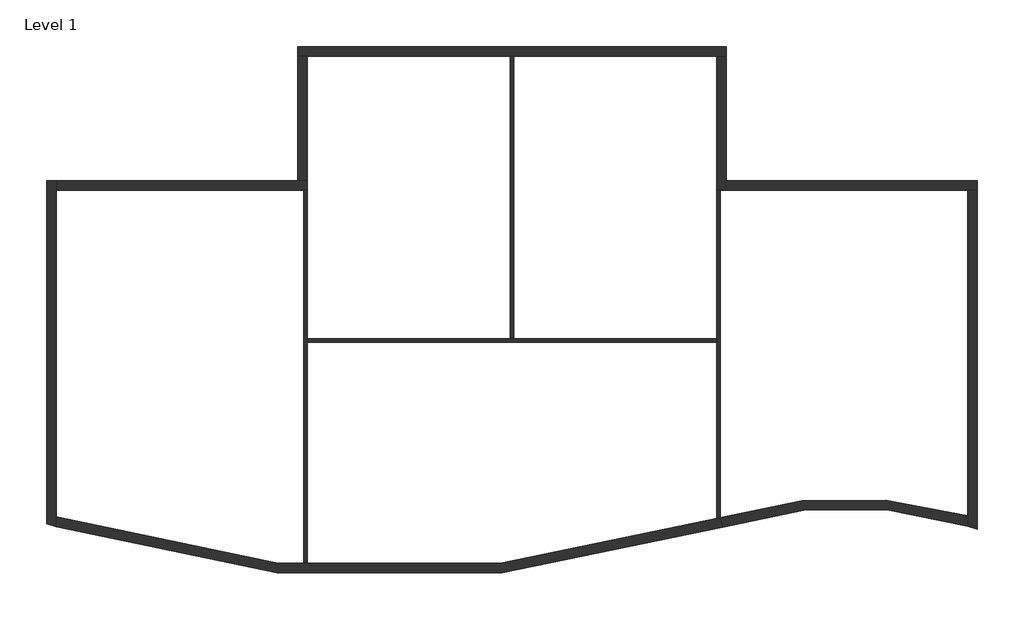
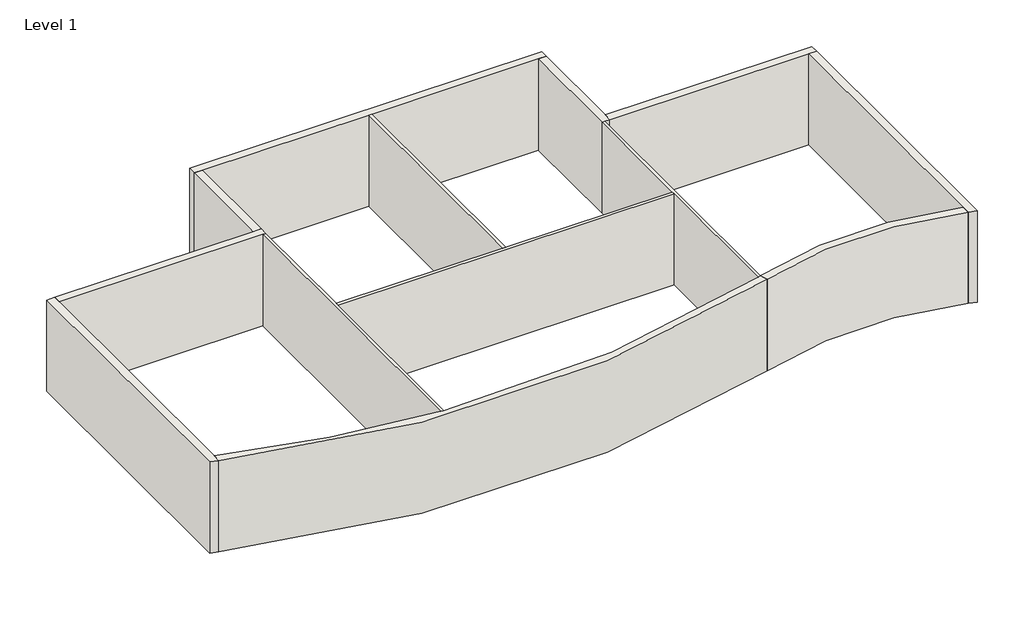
# One storey: 13 walls.
"""IFC4 building model written with IfcOpenShell, lengths in millimetres."""

from ifc_helpers import new_model, si_unit, frame, origin, origin_with_axes, place, context, project, spatial, polyline, circle_curve, outline, extrude, faceted_brep, element, save
from ifc_brep_helpers import plane_surface, cylinder_surface, revolved_surface, advanced_brep

model = new_model("IFC4")

# Units and contexts
model_context = context("Model", 3, world=origin())
ifc_project = project(units=[si_unit("LENGTHUNIT", "METRE", prefix="MILLI")], contexts=[model_context])

# Site, building, storey
site = spatial("IfcSite", under=ifc_project)
building = spatial("IfcBuilding", under=site)
storey = spatial("IfcBuildingStorey", under=building, Name="Level 1", Elevation=0.0)

# Walls
placement = place(None, origin())
element("IfcWall", 1, ObjectType="Exterior - Brick on Mtl. Stud", at=placement, inside=storey, context=model_context, shape_type="Brep", body=[
    faceted_brep([(-8759.1681416, 12098.0013437, 0.0), (-8406.7431416, 12098.0013437, 0.0), (-1026.4556416, 12098.0013437, 0.0), (-899.4556416, 12098.0013437, 0.0), (6480.8318584, 12098.0013437, 0.0), (6833.2568584, 12098.0013437, 0.0), (6833.2568584, 12098.0013437, 4267.2), (6480.8318584, 12098.0013437, 4267.2), (-899.4556416, 12098.0013437, 4267.2), (-1026.4556416, 12098.0013437, 4267.2), (-8406.7431416, 12098.0013437, 4267.2), (-8759.1681416, 12098.0013437, 4267.2), (-8759.1681416, 12450.4263437, 0.0), (-8759.1681416, 12450.4263437, 4267.2), (6833.2568584, 12450.4263437, 4267.2), (6833.2568584, 12450.4263437, 0.0)], [[[0, 1, 2, 3, 4, 5, 6, 7, 8, 9, 10, 11]], [[12, 13, 14, 15]], [[5, 4, 3, 2, 1, 0, 12, 15]], [[11, 10, 9, 8, 7, 6, 14, 13]], [[6, 5, 15, 14]], [[0, 11, 13, 12]]]),
])
element("IfcWall", 2, ObjectType="Exterior - Brick on Mtl. Stud", at=placement, inside=storey, context=model_context, shape_type="Brep", body=[
    faceted_brep([(6480.8318584, 12098.0013437, 0.0), (6480.8318584, 7221.2013437, 0.0), (6480.8318584, 7221.2013437, 4267.2), (6480.8318584, 12098.0013437, 4267.2), (6833.2568584, 12098.0013437, 0.0), (6833.2568584, 12098.0013437, 4267.2), (6833.2568584, 7573.6263437, 4267.2), (6833.2568584, 7221.2013437, 4267.2), (6833.2568584, 7221.2013437, 0.0), (6833.2568584, 7573.6263437, 0.0), (6607.8318584, 7221.2013437, 0.0), (6607.8318584, 7221.2013437, 4267.2)], [[[0, 1, 2, 3]], [[4, 5, 6, 7, 8, 9]], [[1, 0, 4, 9, 8, 10]], [[3, 2, 11, 7, 6, 5]], [[0, 3, 5, 4]], [[2, 1, 10, 8, 7, 11]]]),
])
element("IfcWall", 3, ObjectType="Exterior - Brick on Mtl. Stud", at=placement, inside=storey, context=model_context, shape_type="Brep", body=[
    faceted_brep([(6833.2568584, 7221.2013437, 0.0), (15624.8318584, 7221.2013437, 0.0), (15977.2568584, 7221.2013437, 0.0), (15977.2568584, 7221.2013437, 4267.2), (15624.8318584, 7221.2013437, 4267.2), (6833.2568584, 7221.2013437, 4267.2), (6833.2568584, 7573.6263437, 0.0), (6833.2568584, 7573.6263437, 4267.2), (15977.2568584, 7573.6263437, 4267.2), (15977.2568584, 7573.6263437, 0.0)], [[[0, 1, 2, 3, 4, 5]], [[6, 7, 8, 9]], [[2, 1, 0, 6, 9]], [[5, 4, 3, 8, 7]], [[0, 5, 7, 6]], [[3, 2, 9, 8]]]),
])
element("IfcWall", 4, ObjectType="Exterior - Brick on Mtl. Stud", at=placement, inside=storey, context=model_context, shape_type="AdvancedBrep", body=[
    advanced_brep(
    [(15624.8318584, 7221.2013437, 0.0), (15624.8318584, -4633.9162156, 0.0), (15624.8318584, -5001.9870265, 0.0), (15624.8318584, -5001.9870265, 4267.2), (15624.8318584, -4633.9162156, 4267.2), (15624.8318584, 7221.2013437, 4267.2), (15977.2568584, 7221.2013437, 0.0), (15977.2568584, 7221.2013437, 4267.2), (15977.2568584, -5114.2560845, 4267.2), (15977.2568584, -5114.2560845, 0.0)],
    [
        (0, 1),
        (1, 2),
        (2, 3),
        (3, 4),
        (4, 5),
        (5, 0),
        (6, 7),
        (7, 8),
        (8, 9),
        (9, 6),
        (0, 6),
        (9, 2, circle_curve(frame((11229.0443584, -19410.1356272, 0.0), z_axis=(0.0, 0.0, 1.0), x_axis=(1.0, 0.0, 0.0)), 15063.7875)),
        (3, 8, circle_curve(frame((11229.0443584, -19410.1356272, 4267.2), z_axis=(0.0, 0.0, -1.0), x_axis=(1.0, 0.0, 0.0)), 15063.7875)),
        (7, 5),
    ],
    [
        plane_surface(frame((15624.8318584, 7397.4138437, 0.0), z_axis=(-1.0, 0.0, 0.0), x_axis=(0.0, -1.0, 0.0))),
        plane_surface(frame((15977.2568584, 7397.4138437, 0.0), z_axis=(1.0, 0.0, 0.0), x_axis=(0.0, 1.0, 0.0))),
        plane_surface(frame((15624.8318584, 7397.4138437, 0.0), z_axis=(0.0, 0.0, -1.0), x_axis=(1.0, 0.0, 0.0))),
        plane_surface(frame((15624.8318584, -4872.1021976, 4267.2), z_axis=(0.0, 0.0, 1.0), x_axis=(1.0, 0.0, 0.0))),
        plane_surface(frame((6657.0443584, 7221.2013437, 0.0), z_axis=(0.0, 1.0, 0.0), x_axis=(1.0, 0.0, 0.0))),
        revolved_surface(polyline([(26292.8318584, -19410.1356272, 0.0), (26292.8318584, -19410.1356272, 4267.2)]), (11229.0443584, -19410.1356272, 0.0), (0.0, 0.0, -1.0)),
    ],
    [
        (0, [[1, 2, 3, 4, 5, 6]]),
        (1, [[7, 8, 9, 10]]),
        (2, [[-2, -1, 11, -10, 12]]),
        (3, [[-5, -4, 13, -8, 14]]),
        (4, [[-6, -14, -7, -11]]),
        (5, [[-3, -12, -9, -13]]),
    ],
),
])
element("IfcWall", 5, ObjectType="Exterior - Brick on Mtl. Stud", at=placement, inside=storey, context=model_context, shape_type="AdvancedBrep", body=[
    advanced_brep(
    [(-17550.7431416, -5035.5726846, 0.0), (-17550.7431416, -4665.9252454, 0.0), (-17550.7431416, 7221.2013437, 0.0), (-17550.7431416, 7573.6263437, 0.0), (-17550.7431416, 7573.6263437, 4267.2), (-17550.7431416, 7221.2013437, 4267.2), (-17550.7431416, -4665.9252454, 4267.2), (-17550.7431416, -5035.5726846, 4267.2), (-17903.1681416, -4922.8163357, 0.0), (-17903.1681416, -4922.8163357, 4267.2), (-17903.1681416, 7573.6263437, 4267.2), (-17903.1681416, 7573.6263437, 0.0)],
    [
        (0, 1),
        (1, 2),
        (2, 3),
        (3, 4),
        (4, 5),
        (5, 6),
        (6, 7),
        (7, 0),
        (8, 9),
        (9, 10),
        (10, 11),
        (11, 8),
        (0, 8, circle_curve(frame((-5413.0682977, 33508.4098964, 0.0), z_axis=(0.0, 0.0, -1.0), x_axis=(1.0, 0.0, 0.0)), 40409.9213538)),
        (11, 3),
        (4, 10),
        (9, 7, circle_curve(frame((-5413.0682977, 33508.4098964, 4267.2), z_axis=(0.0, 0.0, 1.0), x_axis=(1.0, 0.0, 0.0)), 40409.9213538)),
    ],
    [
        plane_surface(frame((-17550.7431416, -4794.5861563, 0.0), z_axis=(1.0, 0.0, 0.0), x_axis=(0.0, 1.0, 0.0))),
        plane_surface(frame((-17903.1681416, -4794.5861563, 0.0), z_axis=(-1.0, 0.0, 0.0), x_axis=(0.0, -1.0, 0.0))),
        plane_surface(frame((-17550.7431416, -4794.5861563, 0.0), z_axis=(0.0, 0.0, -1.0), x_axis=(-1.0, 0.0, 0.0))),
        plane_surface(frame((-17550.7431416, 7397.4138437, 4267.2), z_axis=(0.0, 0.0, 1.0), x_axis=(-1.0, 0.0, 0.0))),
        plane_surface(frame((-18184.1556416, 7573.6263437, 0.0), z_axis=(0.0, 1.0, 0.0), x_axis=(-1.0, 0.0, 0.0))),
        cylinder_surface(frame((-5413.0682977, 33508.4098964, 0.0), z_axis=(0.0, 0.0, 1.0), x_axis=(1.0, 0.0, 0.0)), 40409.9213538),
    ],
    [
        (0, [[1, 2, 3, 4, 5, 6, 7, 8]]),
        (1, [[9, 10, 11, 12]]),
        (2, [[-3, -2, -1, 13, -12, 14]]),
        (3, [[-7, -6, -5, 15, -10, 16]]),
        (4, [[-4, -14, -11, -15]]),
        (5, [[-8, -16, -9, -13]]),
    ],
),
])
element("IfcWall", 6, ObjectType="Exterior - Brick on Mtl. Stud", at=placement, inside=storey, context=model_context, shape_type="Brep", body=[
    faceted_brep([(-17550.7431416, 7221.2013437, 0.0), (-8533.7431416, 7221.2013437, 0.0), (-8406.7431416, 7221.2013437, 0.0), (-8406.7431416, 7221.2013437, 4267.2), (-8533.7431416, 7221.2013437, 4267.2), (-17550.7431416, 7221.2013437, 4267.2), (-17550.7431416, 7573.6263437, 0.0), (-17550.7431416, 7573.6263437, 4267.2), (-8759.1681416, 7573.6263437, 4267.2), (-8406.7431416, 7573.6263437, 4267.2), (-8406.7431416, 7573.6263437, 0.0), (-8759.1681416, 7573.6263437, 0.0)], [[[0, 1, 2, 3, 4, 5]], [[6, 7, 8, 9, 10, 11]], [[2, 1, 0, 6, 11, 10]], [[5, 4, 3, 9, 8, 7]], [[0, 5, 7, 6]], [[3, 2, 10, 9]]]),
])
element("IfcWall", 7, ObjectType="Exterior - Brick on Mtl. Stud", at=placement, inside=storey, context=model_context, shape_type="SweptSolid", body=[
    extrude(outline(polyline([(-8406.7431416, 12098.0013437), (-8406.7431416, 7573.6263437), (-8759.1681416, 7573.6263437), (-8759.1681416, 12098.0013437), (-8406.7431416, 12098.0013437)])), origin_with_axes(), (0.0, 0.0, 1.0), 4267.2),
])
element("IfcWall", 8, ObjectType="Exterior - Brick on Mtl. Stud", at=placement, inside=storey, context=model_context, shape_type="AdvancedBrep", body=[
    advanced_brep(
    [(6709.9081084, -5040.1982091, 4267.2), (15624.8318584, -5001.9870265, 4267.2), (15624.8318584, -4633.9162156, 4267.2), (6607.832825, -4702.8581376, 4267.2), (6604.1806084, -4704.0061861, 4267.2), (6709.9081084, -5040.1982091, 0.0), (6604.1806084, -4704.0061861, 0.0), (6607.832825, -4702.8581376, 0.0), (15624.8318584, -4633.9162156, 0.0), (15624.8318584, -5001.9870265, 0.0)],
    [
        (0, 1, circle_curve(frame((11229.0443584, -19410.1356272, 4267.2), z_axis=(0.0, 0.0, -1.0), x_axis=(1.0, 0.0, 0.0)), 15063.7875)),
        (1, 2),
        (2, 3, circle_curve(frame((11229.0443584, -19410.1356272, 4267.2), z_axis=(0.0, 0.0, 1.0), x_axis=(1.0, 0.0, 0.0)), 15416.2125)),
        (3, 4, circle_curve(frame((11229.0443584, -19410.1356272, 4267.2), z_axis=(0.0, 0.0, 1.0), x_axis=(1.0, 0.0, 0.0)), 15416.2124788)),
        (4, 0),
        (5, 6),
        (6, 7, circle_curve(frame((11229.0443584, -19410.1356272, 0.0), z_axis=(0.0, 0.0, -1.0), x_axis=(1.0, 0.0, 0.0)), 15416.2125)),
        (7, 8, circle_curve(frame((11229.0443584, -19410.1356272, 0.0), z_axis=(0.0, 0.0, -1.0), x_axis=(1.0, 0.0, 0.0)), 15416.2124788)),
        (8, 9),
        (9, 5, circle_curve(frame((11229.0443584, -19410.1356272, 0.0), z_axis=(0.0, 0.0, 1.0), x_axis=(1.0, 0.0, 0.0)), 15063.7875)),
        (0, 5),
        (9, 1),
        (2, 8),
        (6, 4),
    ],
    [
        plane_surface(frame((26292.8318584, -19410.1356272, 4267.2), z_axis=(0.0, 0.0, 1.0), x_axis=(0.0, -1.0, 0.0))),
        plane_surface(frame((26292.8318584, -19410.1356272, 0.0), z_axis=(0.0, 0.0, -1.0), x_axis=(0.0, 1.0, 0.0))),
        revolved_surface(polyline([(26292.8318584, -19410.1356272, 0.0), (26292.8318584, -19410.1356272, 4267.2)]), (11229.0443584, -19410.1356272, 0.0), (0.0, 0.0, -1.0)),
        cylinder_surface(frame((11229.0443584, -19410.1356272, 0.0), z_axis=(0.0, 0.0, 1.0), x_axis=(1.0, 0.0, 0.0)), 15416.2125),
        plane_surface(frame((6604.1806084, -4704.0061861, 4267.2), z_axis=(-0.9539392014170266, -0.29999999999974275, 0.0), x_axis=(0.0, 0.0, -1.0))),
        plane_surface(frame((15624.8318584, 7397.4138437, 0.0), z_axis=(1.0, 0.0, 0.0), x_axis=(0.0, -1.0, 0.0))),
    ],
    [
        (0, [[1, 2, 3, 4, 5]]),
        (1, [[6, 7, 8, 9, 10]]),
        (2, [[-1, 11, -10, 12]]),
        (3, [[-4, -3, 13, -8, -7, 14]]),
        (4, [[-5, -14, -6, -11]]),
        (5, [[-2, -12, -9, -13]]),
    ],
),
])
element("IfcWall", 9, ObjectType="Exterior - Brick on Mtl. Stud", at=placement, inside=storey, context=model_context, shape_type="AdvancedBrep", body=[
    advanced_brep(
    [(-17550.7431416, -5035.5726846, 4267.2), (6709.9081084, -5040.1982091, 4267.2), (6604.1806084, -4704.0061861, 4267.2), (6480.8224983, -4742.5818225, 4267.2), (-8406.7440245, -6437.0643599, 4267.2), (-8533.7455206, -6427.3433192, 4267.2), (-17550.7431416, -4665.9252454, 4267.2), (-17550.7431416, -5035.5726846, 0.0), (-17550.7431416, -4665.9252454, 0.0), (-8533.7455206, -6427.3433192, 0.0), (-8406.7440245, -6437.0643599, 0.0), (6480.8224983, -4742.5818225, 0.0), (6604.1806084, -4704.0061861, 0.0), (6709.9081084, -5040.1982091, 0.0)],
    [
        (0, 1, circle_curve(frame((-5413.0682977, 33508.4098964, 4267.2), z_axis=(0.0, 0.0, 1.0), x_axis=(1.0, 0.0, 0.0)), 40409.9213538)),
        (1, 2),
        (2, 3, circle_curve(frame((-5413.0682977, 33508.4098964, 4267.2), z_axis=(0.0, 0.0, -1.0), x_axis=(1.0, 0.0, 0.0)), 40057.4963538)),
        (3, 4, circle_curve(frame((-5413.0682977, 33508.4098964, 4267.2), z_axis=(0.0, 0.0, -1.0), x_axis=(1.0, 0.0, 0.0)), 40057.4962492)),
        (4, 5, circle_curve(frame((-5413.0682977, 33508.4098964, 4267.2), z_axis=(0.0, 0.0, -1.0), x_axis=(1.0, 0.0, 0.0)), 40057.4962762)),
        (5, 6, circle_curve(frame((-5413.0682977, 33508.4098964, 4267.2), z_axis=(0.0, 0.0, -1.0), x_axis=(1.0, 0.0, 0.0)), 40057.4963175)),
        (6, 0),
        (7, 8),
        (8, 9, circle_curve(frame((-5413.0682977, 33508.4098964, 0.0), z_axis=(0.0, 0.0, 1.0), x_axis=(1.0, 0.0, 0.0)), 40057.4963538)),
        (9, 10, circle_curve(frame((-5413.0682977, 33508.4098964, 0.0), z_axis=(0.0, 0.0, 1.0), x_axis=(1.0, 0.0, 0.0)), 40057.4963175)),
        (10, 11, circle_curve(frame((-5413.0682977, 33508.4098964, 0.0), z_axis=(0.0, 0.0, 1.0), x_axis=(1.0, 0.0, 0.0)), 40057.4962762)),
        (11, 12, circle_curve(frame((-5413.0682977, 33508.4098964, 0.0), z_axis=(0.0, 0.0, 1.0), x_axis=(1.0, 0.0, 0.0)), 40057.4962492)),
        (12, 13),
        (13, 7, circle_curve(frame((-5413.0682977, 33508.4098964, 0.0), z_axis=(0.0, 0.0, -1.0), x_axis=(1.0, 0.0, 0.0)), 40409.9213538)),
        (0, 7),
        (13, 1),
        (12, 2),
        (8, 6),
    ],
    [
        plane_surface(frame((34996.853056, 33508.4098964, 4267.2), z_axis=(0.0, 0.0, 1.0), x_axis=(0.0, 1.0, 0.0))),
        plane_surface(frame((34996.853056, 33508.4098964, 0.0), z_axis=(0.0, 0.0, -1.0), x_axis=(0.0, -1.0, 0.0))),
        cylinder_surface(frame((-5413.0682977, 33508.4098964, 0.0), z_axis=(0.0, 0.0, 1.0), x_axis=(1.0, 0.0, 0.0)), 40409.9213538),
        plane_surface(frame((6709.9081084, -5040.1982091, 4267.2), z_axis=(0.9539392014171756, 0.2999999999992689, 0.0), x_axis=(0.0, 0.0, -1.0))),
        revolved_surface(polyline([(34644.428056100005, 33508.4098964, 0.0), (34644.428056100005, 33508.4098964, 4267.2)]), (-5413.0682977, 33508.4098964, 0.0), (0.0, 0.0, -1.0)),
        plane_surface(frame((-17550.7431416, -4794.5861563, 0.0), z_axis=(-1.0, 0.0, 0.0), x_axis=(0.0, 1.0, 0.0))),
    ],
    [
        (0, [[1, 2, 3, 4, 5, 6, 7]]),
        (1, [[8, 9, 10, 11, 12, 13, 14]]),
        (2, [[-1, 15, -14, 16]]),
        (3, [[-2, -16, -13, 17]]),
        (4, [[-6, -5, -4, -3, -17, -12, -11, -10, -9, 18]]),
        (5, [[-7, -18, -8, -15]]),
    ],
),
])
element("IfcWall", 10, ObjectType="Generic - 5\"", at=placement, inside=storey, context=model_context, shape_type="SweptSolid", body=[
    extrude(outline(polyline([(-1026.4556416, 1822.1138437), (-1026.4556416, 12098.0013437), (-899.4556416, 12098.0013437), (-899.4556416, 1822.1138437), (-1026.4556416, 1822.1138437)])), origin_with_axes(), (0.0, 0.0, 1.0), 4267.2),
])
element("IfcWall", 11, ObjectType="Generic - 5\"", at=placement, inside=storey, context=model_context, shape_type="AdvancedBrep", body=[
    advanced_brep(
    [(-8533.7431416, 7221.2013437, 0.0), (-8533.7431416, -6427.3435415, 0.0), (-8533.7431416, -6427.3435415, 4267.2), (-8533.7431416, 7221.2013437, 4267.2), (-8406.7431416, 7221.2013437, 0.0), (-8406.7431416, 7221.2013437, 4267.2), (-8406.7431416, 1822.1138437, 4267.2), (-8406.7431416, 1695.1138437, 4267.2), (-8406.7431416, -6437.0645038, 4267.2), (-8406.7431416, -6437.0645038, 0.0), (-8406.7431416, 1695.1138437, 0.0), (-8406.7431416, 1822.1138437, 0.0)],
    [
        (0, 1),
        (1, 2),
        (2, 3),
        (3, 0),
        (4, 5),
        (5, 6),
        (6, 7),
        (7, 8),
        (8, 9),
        (9, 10),
        (10, 11),
        (11, 4),
        (0, 4),
        (9, 1, circle_curve(frame((-5413.0682977, 33508.4098964, 0.0), z_axis=(0.0, 0.0, -1.0), x_axis=(1.0, 0.0, 0.0)), 40057.4963538)),
        (2, 8, circle_curve(frame((-5413.0682977, 33508.4098964, 4267.2), z_axis=(0.0, 0.0, 1.0), x_axis=(1.0, 0.0, 0.0)), 40057.4963538)),
        (5, 3),
    ],
    [
        plane_surface(frame((-8533.7431416, 1442.7013437, 0.0), z_axis=(-1.0, 0.0, 0.0), x_axis=(0.0, -1.0, 0.0))),
        plane_surface(frame((-8406.7431416, 1442.7013437, 0.0), z_axis=(1.0, 0.0, 0.0), x_axis=(0.0, 1.0, 0.0))),
        plane_surface(frame((-8533.7431416, 7397.4138437, 0.0), z_axis=(0.0, 0.0, -1.0), x_axis=(1.0, 0.0, 0.0))),
        plane_surface(frame((-8533.7431416, -6608.9804736, 4267.2), z_axis=(0.0, 0.0, 1.0), x_axis=(1.0, 0.0, 0.0))),
        cylinder_surface(frame((-5413.0682977, 33508.4098964, 0.0), z_axis=(0.0, 0.0, -1.0), x_axis=(1.0, 0.0, 0.0)), 40057.4963538),
        plane_surface(frame((-18184.1556416, 7221.2013437, 0.0), z_axis=(0.0, 1.0, 0.0), x_axis=(1.0, 0.0, 0.0))),
    ],
    [
        (0, [[1, 2, 3, 4]]),
        (1, [[5, 6, 7, 8, 9, 10, 11, 12]]),
        (2, [[-1, 13, -12, -11, -10, 14]]),
        (3, [[-3, 15, -8, -7, -6, 16]]),
        (4, [[-2, -14, -9, -15]]),
        (5, [[-4, -16, -5, -13]]),
    ],
),
])
element("IfcWall", 12, ObjectType="Generic - 5\"", at=placement, inside=storey, context=model_context, shape_type="Brep", body=[
    faceted_brep([(-8406.7431416, 1695.1138437, 0.0), (6480.8318584, 1695.1138437, 0.0), (6480.8318584, 1695.1138437, 4267.2), (-8406.7431416, 1695.1138437, 4267.2), (-8406.7431416, 1822.1138437, 0.0), (-8406.7431416, 1822.1138437, 4267.2), (-1026.4556416, 1822.1138437, 4267.2), (-899.4556416, 1822.1138437, 4267.2), (6480.8318584, 1822.1138437, 4267.2), (6480.8318584, 1822.1138437, 0.0), (-899.4556416, 1822.1138437, 0.0), (-1026.4556416, 1822.1138437, 0.0)], [[[0, 1, 2, 3]], [[4, 5, 6, 7, 8, 9, 10, 11]], [[1, 0, 4, 11, 10, 9]], [[3, 2, 8, 7, 6, 5]], [[2, 1, 9, 8]], [[0, 3, 5, 4]]]),
])
element("IfcWall", 13, ObjectType="Generic - 5\"", at=placement, inside=storey, context=model_context, shape_type="AdvancedBrep", body=[
    advanced_brep(
    [(6480.8318584, 7221.2013437, 0.0), (6480.8318584, 1822.1138437, 0.0), (6480.8318584, 1695.1138437, 0.0), (6480.8318584, -4742.5790216, 0.0), (6480.8318584, -4742.5790216, 4267.2), (6480.8318584, 1695.1138437, 4267.2), (6480.8318584, 1822.1138437, 4267.2), (6480.8318584, 7221.2013437, 4267.2), (6607.8318584, 7221.2013437, 0.0), (6607.8318584, 7221.2013437, 4267.2), (6607.8318584, -4702.8584191, 4267.2), (6607.8318584, -4702.8584191, 0.0), (6604.1806084, -4704.0061861, 0.0), (6604.1806084, -4704.0061861, 4267.2)],
    [
        (0, 1),
        (1, 2),
        (2, 3),
        (3, 4),
        (4, 5),
        (5, 6),
        (6, 7),
        (7, 0),
        (8, 9),
        (9, 10),
        (10, 11),
        (11, 8),
        (0, 8),
        (11, 12, circle_curve(frame((11229.0443584, -19410.1356272, 0.0), z_axis=(0.0, 0.0, 1.0), x_axis=(0.9539392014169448, 0.30000000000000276, 0.0)), 15416.2125)),
        (12, 3, circle_curve(frame((-5413.0682977, 33508.4098964, 0.0), z_axis=(0.0, 0.0, -1.0), x_axis=(0.952012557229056, -0.3060589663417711, 0.0)), 40057.4963538)),
        (4, 13, circle_curve(frame((-5413.0682977, 33508.4098964, 4267.2), z_axis=(0.0, 0.0, 1.0), x_axis=(0.952012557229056, -0.3060589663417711, 0.0)), 40057.4963538)),
        (13, 10, circle_curve(frame((11229.0443584, -19410.1356272, 4267.2), z_axis=(0.0, 0.0, -1.0), x_axis=(0.9539392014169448, 0.30000000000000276, 0.0)), 15416.2125)),
        (9, 7),
        (12, 13),
    ],
    [
        plane_surface(frame((6480.8318584, 1442.7013437, 0.0), z_axis=(-1.0, 0.0, 0.0), x_axis=(0.0, -1.0, 0.0))),
        plane_surface(frame((6607.8318584, 1442.7013437, 0.0), z_axis=(1.0, 0.0, 0.0), x_axis=(0.0, 1.0, 0.0))),
        plane_surface(frame((6480.8318584, 7397.4138437, 0.0), z_axis=(0.0, 0.0, -1.0), x_axis=(1.0, 0.0, 0.0))),
        plane_surface(frame((6480.8318584, -4907.366936, 4267.2), z_axis=(0.0, 0.0, 1.0), x_axis=(1.0, 0.0, 0.0))),
        cylinder_surface(frame((-5413.0682977, 33508.4098964, -213.36), z_axis=(0.0, 0.0, 1.0), x_axis=(0.952012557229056, -0.3060589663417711, 0.0)), 40057.4963538),
        revolved_surface(polyline([(25935.173799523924, -14785.271877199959, 4267.2), (25935.173799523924, -14785.271877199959, 0.0)]), (11229.0443584, -19410.1356272, -213.36), (0.0, 0.0, 1.0)),
        plane_surface(frame((6657.0443584, 7221.2013437, 0.0), z_axis=(0.0, 1.0, 0.0), x_axis=(1.0, 0.0, 0.0))),
    ],
    [
        (0, [[1, 2, 3, 4, 5, 6, 7, 8]]),
        (1, [[9, 10, 11, 12]]),
        (2, [[-3, -2, -1, 13, -12, 14, 15]]),
        (3, [[-7, -6, -5, 16, 17, -10, 18]]),
        (4, [[-4, -15, 19, -16]]),
        (5, [[-14, -11, -17, -19]]),
        (6, [[-8, -18, -9, -13]]),
    ],
),
])

save(model, "model.ifc")
